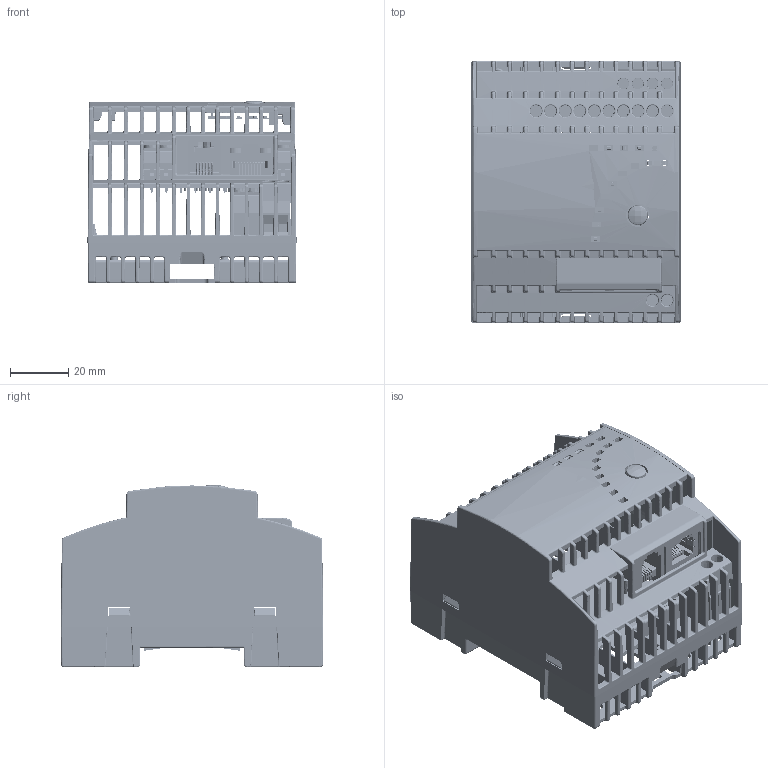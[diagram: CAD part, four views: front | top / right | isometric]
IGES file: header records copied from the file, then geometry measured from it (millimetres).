
Global section: file name: Formato Igs; native system: Autodesk Inventor 2024; preprocessor: unknown; author: Sabattini; date: 20231205.092819; units: millimetre
Bounding box: 71.8 x 90 x 62.76 mm (x, y, z)
Volume: 50863.5 mm3; surface area: 81433.3 mm2
Topology: 43 solids, 43 shells, 6220 faces, 17197 edges, 10830 vertices
Faces by surface type: bspline 6220
